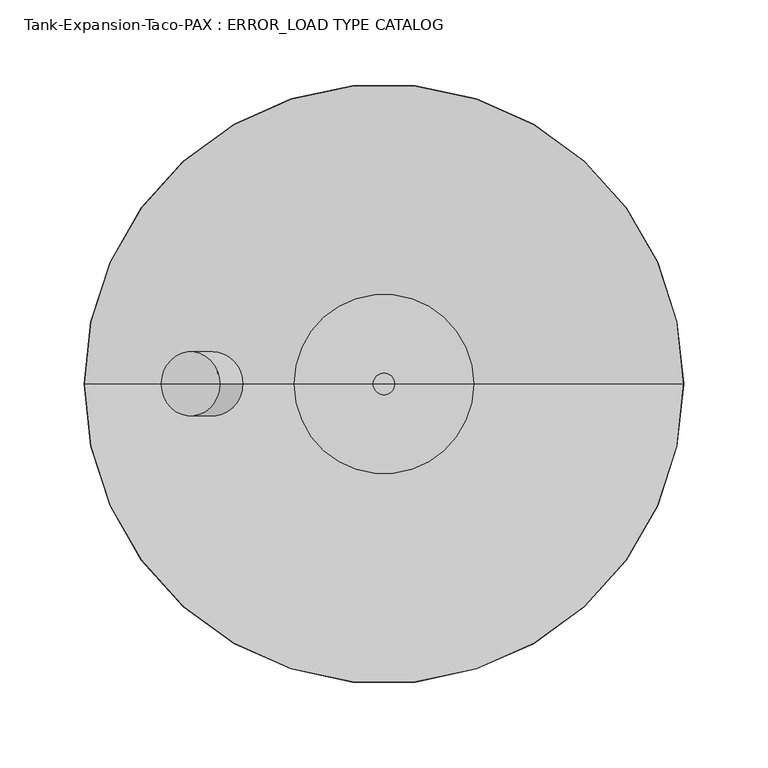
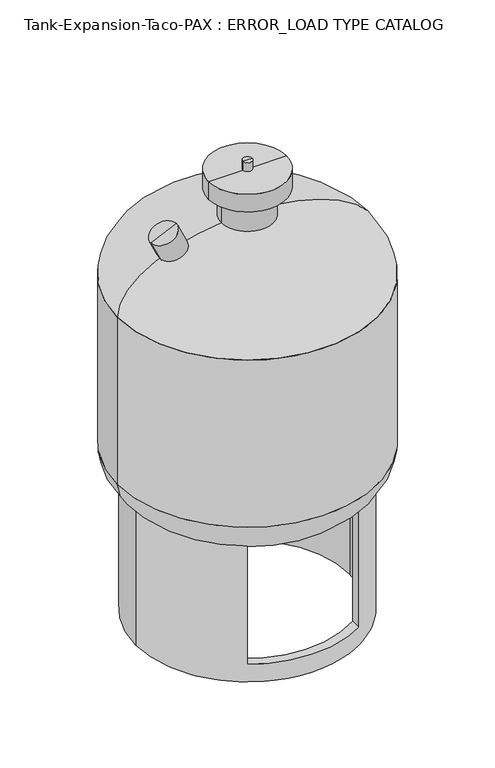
"""IFC4 building model written with IfcOpenShell, lengths in millimetres: proxy geometry, Tank-Expansion-Taco-PAX : ERROR_LOAD TYPE CATALOG."""

from ifc_helpers import new_model, si_unit, point, frame, origin, place, context, project, spatial, polyline, circle_curve, ellipse_curve, trimmed, source, transform, mapped, element, save
from ifc_brep_helpers import plane_surface, cylinder_surface, revolved_surface, advanced_brep


def tank_expansion_taco_pax_error_load_type_catalog_ec3dda8b(model_context):
    return source(origin(), model_context, "Body", "AdvancedBrep", [
        advanced_brep(
        [(-114.722864, 0.0, 581.9412054), (-97.4262377, 0.0, 589.9242636), (-132.0194903, 0.0, 573.9581471), (-97.4262377, 0.0, 499.0060999), (-62.8329852, 0.0, 514.9722164), (-80.1296115, 0.0, 506.9891582)],
        [
            (0, 1),
            (1, 2, circle_curve(frame((-114.722864, 0.0, 581.9412054), z_axis=(-0.41905817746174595, 0.0, 0.9079593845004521), x_axis=(0.9079593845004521, 0.0, 0.41905817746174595)), 19.05)),
            (2, 0),
            (2, 1, circle_curve(frame((-114.722864, 0.0, 581.9412054), z_axis=(-0.41905817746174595, 0.0, 0.9079593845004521), x_axis=(0.9079593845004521, 0.0, 0.41905817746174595)), 19.05)),
            (3, 4, circle_curve(frame((-80.1296115, 0.0, 506.9891582), z_axis=(0.41905817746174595, 0.0, -0.9079593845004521), x_axis=(0.9079593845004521, 0.0, 0.41905817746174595)), 19.05)),
            (4, 5),
            (5, 3),
            (4, 3, circle_curve(frame((-80.1296115, 0.0, 506.9891582), z_axis=(0.41905817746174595, 0.0, -0.9079593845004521), x_axis=(0.9079593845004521, 0.0, 0.41905817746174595)), 19.05)),
            (1, 4),
            (3, 2),
        ],
        [
            plane_surface(frame((-114.722864, 0.0, 581.9412054), z_axis=(-0.41905817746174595, 0.0, 0.9079593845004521), x_axis=(0.9079593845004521, 0.0, 0.41905817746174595))),
            plane_surface(frame((-80.1296115, 0.0, 506.9891582), z_axis=(0.41905817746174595, 0.0, -0.9079593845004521), x_axis=(0.9079593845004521, 0.0, 0.41905817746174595))),
            cylinder_surface(frame((-117.3838834, 0.0, 587.7067475), z_axis=(-0.41905817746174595, 0.0, 0.9079593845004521), x_axis=(0.9079593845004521, 0.0, 0.41905817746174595)), 19.05),
        ],
        [
            (0, [[1, 2, 3]]),
            (0, [[-3, 4, -1]]),
            (1, [[5, 6, 7]]),
            (1, [[8, -7, -6]]),
            (2, [[-2, 9, -5, 10]]),
            (2, [[-4, -10, -8, -9]]),
        ],
    ),
        advanced_brep(
        [(177.8, 0.0, 482.6), (-177.8, 0.0, 482.6), (0.0, 0.0, 482.6), (177.8, 0.0, 241.3), (-177.8, 0.0, 241.3), (0.0, 0.0, 241.3)],
        [
            (0, 1, circle_curve(frame((0.0, 0.0, 482.6), z_axis=(0.0, 0.0, 1.0), x_axis=(-1.0, 0.0, 0.0)), 177.8)),
            (1, 2),
            (2, 0),
            (1, 0, circle_curve(frame((0.0, 0.0, 482.6), z_axis=(0.0, 0.0, 1.0), x_axis=(-1.0, 0.0, 0.0)), 177.8)),
            (3, 4, circle_curve(frame((0.0, 0.0, 241.3), z_axis=(0.0, 0.0, 1.0), x_axis=(-1.0, 0.0, 0.0)), 177.8)),
            (4, 1),
            (0, 3),
            (4, 3, circle_curve(frame((0.0, 0.0, 241.3), z_axis=(0.0, 0.0, 1.0), x_axis=(-1.0, 0.0, 0.0)), 177.8)),
            (5, 4),
            (3, 5),
        ],
        [
            plane_surface(frame((0.0, 0.0, 482.6), z_axis=(0.0, 0.0, 1.0), x_axis=(-1.0, 0.0, 0.0))),
            cylinder_surface(frame((0.0, 0.0, 768.35), z_axis=(0.0, 0.0, -1.0), x_axis=(-1.0, 0.0, 0.0)), 177.8),
            plane_surface(frame((0.0, 0.0, 241.3), z_axis=(0.0, 0.0, -1.0), x_axis=(-1.0, 0.0, 0.0))),
        ],
        [
            (0, [[1, 2, 3]]),
            (0, [[4, -3, -2]]),
            (1, [[5, 6, -1, 7]]),
            (1, [[8, -7, -4, -6]]),
            (2, [[9, -5, 10]]),
            (2, [[-10, -8, -9]]),
        ],
    ),
        advanced_brep(
        [(152.4, 0.0, 241.3), (-152.4, 0.0, 241.3), (-139.7, 0.0, 241.3), (139.7, 0.0, 241.3), (-76.2, -131.9822715, 241.3), (-76.2, -117.0882146, 241.3), (76.2, -117.0882146, 241.3), (76.2, -131.9822715, 241.3), (152.4, 0.0, 0.0), (-152.4, 0.0, 0.0), (76.2, -131.9822715, 25.4), (-76.2, -131.9822715, 25.4), (139.7, 0.0, 0.0), (-139.7, 0.0, 0.0), (-76.2, -117.0882146, 25.4), (76.2, -117.0882146, 25.4)],
        [
            (0, 1, circle_curve(frame((0.0, 0.0, 241.3), z_axis=(0.0, 0.0, 1.0), x_axis=(-1.0, 0.0, 0.0)), 152.4)),
            (1, 2),
            (2, 3, circle_curve(frame((0.0, 0.0, 241.3), z_axis=(0.0, 0.0, -1.0), x_axis=(-1.0, 0.0, 0.0)), 139.7)),
            (3, 0),
            (1, 4, circle_curve(frame((0.0, 0.0, 241.3), z_axis=(0.0, 0.0, 1.0), x_axis=(-1.0, 0.0, 0.0)), 152.4)),
            (4, 5),
            (5, 2, circle_curve(frame((0.0, 0.0, 241.3), z_axis=(0.0, 0.0, -1.0), x_axis=(-1.0, 0.0, 0.0)), 139.7)),
            (3, 6, circle_curve(frame((0.0, 0.0, 241.3), z_axis=(0.0, 0.0, -1.0), x_axis=(-1.0, 0.0, 0.0)), 139.7)),
            (6, 7),
            (7, 0, circle_curve(frame((0.0, 0.0, 241.3), z_axis=(0.0, 0.0, 1.0), x_axis=(-1.0, 0.0, 0.0)), 152.4)),
            (0, 8),
            (8, 9, circle_curve(frame((0.0, 0.0, 0.0), z_axis=(0.0, 0.0, 1.0), x_axis=(-1.0, 0.0, 0.0)), 152.4)),
            (9, 1),
            (9, 8, circle_curve(frame((0.0, 0.0, 0.0), z_axis=(0.0, 0.0, 1.0), x_axis=(-1.0, 0.0, 0.0)), 152.4)),
            (7, 10),
            (10, 11, circle_curve(frame((0.0, 0.0, 25.4), z_axis=(0.0, 0.0, -1.0), x_axis=(-1.0, 0.0, 0.0)), 152.4)),
            (11, 4),
            (8, 12),
            (12, 13, circle_curve(frame((0.0, 0.0, 0.0), z_axis=(0.0, 0.0, 1.0), x_axis=(-1.0, 0.0, 0.0)), 139.7)),
            (13, 9),
            (13, 12, circle_curve(frame((0.0, 0.0, 0.0), z_axis=(0.0, 0.0, 1.0), x_axis=(-1.0, 0.0, 0.0)), 139.7)),
            (2, 13),
            (12, 3),
            (5, 14),
            (14, 15, circle_curve(frame((0.0, 0.0, 25.4), z_axis=(0.0, 0.0, 1.0), x_axis=(-1.0, 0.0, 0.0)), 139.7)),
            (15, 6),
            (11, 14),
            (10, 15),
        ],
        [
            plane_surface(frame((0.0, 0.0, 241.3), z_axis=(0.0, 0.0, 1.0), x_axis=(-1.0, 0.0, 0.0))),
            cylinder_surface(frame((0.0, 0.0, 469.9), z_axis=(0.0, 0.0, -1.0), x_axis=(-1.0, 0.0, 0.0)), 152.4),
            plane_surface(frame((0.0, 0.0, 0.0), z_axis=(0.0, 0.0, -1.0), x_axis=(-1.0, 0.0, 0.0))),
            revolved_surface(polyline([(-139.7, 0.0, 0.0), (-139.7, 0.0, 241.3)]), (0.0, 0.0, 469.9), (0.0, 0.0, -1.0)),
            plane_surface(frame((-76.2, -177.8, 241.3), z_axis=(1.0, 0.0, 0.0), x_axis=(0.0, 1.0, 0.0))),
            plane_surface(frame((-76.2, -177.8, 25.4), z_axis=(0.0, 0.0, 1.0), x_axis=(0.0, 1.0, 0.0))),
            plane_surface(frame((76.2, -177.8, 25.4), z_axis=(-1.0, 0.0, 0.0), x_axis=(0.0, 1.0, 0.0))),
        ],
        [
            (0, [[1, 2, 3, 4]]),
            (0, [[-2, 5, 6, 7]]),
            (0, [[-4, 8, 9, 10]]),
            (1, [[-1, 11, 12, 13]]),
            (1, [[-13, 14, -11, -10, 15, 16, 17, -5]]),
            (2, [[-12, 18, 19, 20]]),
            (2, [[-14, -20, 21, -18]]),
            (3, [[-3, 22, -19, 23]]),
            (3, [[-21, -22, -7, 24, 25, 26, -8, -23]]),
            (4, [[27, -24, -6, -17]]),
            (5, [[-27, -16, 28, -25]]),
            (6, [[-28, -15, -9, -26]]),
        ],
    ),
        advanced_brep(
        [(0.0, 0.0, 165.1), (12.7, 0.0, 165.1), (-12.7, 0.0, 165.1), (-12.7, 0.0, 139.7), (12.7, 0.0, 139.7), (0.0, 0.0, 139.7)],
        [
            (0, 1),
            (1, 2, circle_curve(frame((0.0, 0.0, 165.1), z_axis=(0.0, 0.0, 1.0), x_axis=(1.0, 0.0, 0.0)), 12.7)),
            (2, 0),
            (2, 1, circle_curve(frame((0.0, 0.0, 165.1), z_axis=(0.0, 0.0, 1.0), x_axis=(1.0, 0.0, 0.0)), 12.7)),
            (3, 4, circle_curve(frame((0.0, 0.0, 139.7), z_axis=(0.0, 0.0, -1.0), x_axis=(1.0, 0.0, 0.0)), 12.7)),
            (4, 5),
            (5, 3),
            (4, 3, circle_curve(frame((0.0, 0.0, 139.7), z_axis=(0.0, 0.0, -1.0), x_axis=(1.0, 0.0, 0.0)), 12.7)),
            (1, 4),
            (3, 2),
        ],
        [
            plane_surface(frame((0.0, 0.0, 165.1), z_axis=(0.0, 0.0, 1.0), x_axis=(1.0, 0.0, 0.0))),
            plane_surface(frame((0.0, 0.0, 139.7), z_axis=(0.0, 0.0, -1.0), x_axis=(1.0, 0.0, 0.0))),
            cylinder_surface(frame((0.0, 0.0, 730.25), z_axis=(0.0, 0.0, 1.0), x_axis=(1.0, 0.0, 0.0)), 12.7),
        ],
        [
            (0, [[1, 2, 3]]),
            (0, [[-3, 4, -1]]),
            (1, [[5, 6, 7]]),
            (1, [[8, -7, -6]]),
            (2, [[-2, 9, -5, 10]]),
            (2, [[-4, -10, -8, -9]]),
        ],
    ),
        advanced_brep(
        [(0.0, 0.0, 647.7), (6.35, 0.0, 647.7), (-6.35, 0.0, 647.7), (-35.71875, 0.0, 482.6), (35.71875, 0.0, 482.6), (0.0, 0.0, 482.6), (-35.71875, 0.0, 609.6), (35.71875, 0.0, 609.6), (-53.18125, 0.0, 609.6), (53.18125, 0.0, 609.6), (-53.18125, 0.0, 635.0), (53.18125, 0.0, 635.0), (-6.35, 0.0, 635.0), (6.35, 0.0, 635.0)],
        [
            (0, 1),
            (1, 2, circle_curve(frame((0.0, 0.0, 647.7), z_axis=(0.0, 0.0, 1.0), x_axis=(1.0, 0.0, 0.0)), 6.35)),
            (2, 0),
            (2, 1, circle_curve(frame((0.0, 0.0, 647.7), z_axis=(0.0, 0.0, 1.0), x_axis=(1.0, 0.0, 0.0)), 6.35)),
            (3, 4, circle_curve(frame((0.0, 0.0, 482.6), z_axis=(0.0, 0.0, -1.0), x_axis=(1.0, 0.0, 0.0)), 35.71875)),
            (4, 5),
            (5, 3),
            (4, 3, circle_curve(frame((0.0, 0.0, 482.6), z_axis=(0.0, 0.0, -1.0), x_axis=(1.0, 0.0, 0.0)), 35.71875)),
            (6, 7, circle_curve(frame((0.0, 0.0, 609.6), z_axis=(0.0, 0.0, -1.0), x_axis=(1.0, 0.0, 0.0)), 35.71875)),
            (7, 4),
            (3, 6),
            (7, 6, circle_curve(frame((0.0, 0.0, 609.6), z_axis=(0.0, 0.0, -1.0), x_axis=(1.0, 0.0, 0.0)), 35.71875)),
            (8, 9, circle_curve(frame((0.0, 0.0, 609.6), z_axis=(0.0, 0.0, -1.0), x_axis=(1.0, 0.0, 0.0)), 53.18125)),
            (9, 7),
            (6, 8),
            (9, 8, circle_curve(frame((0.0, 0.0, 609.6), z_axis=(0.0, 0.0, -1.0), x_axis=(1.0, 0.0, 0.0)), 53.18125)),
            (10, 11, circle_curve(frame((0.0, 0.0, 635.0), z_axis=(0.0, 0.0, -1.0), x_axis=(1.0, 0.0, 0.0)), 53.18125)),
            (11, 9),
            (8, 10),
            (11, 10, circle_curve(frame((0.0, 0.0, 635.0), z_axis=(0.0, 0.0, -1.0), x_axis=(1.0, 0.0, 0.0)), 53.18125)),
            (12, 13, circle_curve(frame((0.0, 0.0, 635.0), z_axis=(0.0, 0.0, -1.0), x_axis=(1.0, 0.0, 0.0)), 6.35)),
            (13, 11),
            (10, 12),
            (13, 12, circle_curve(frame((0.0, 0.0, 635.0), z_axis=(0.0, 0.0, -1.0), x_axis=(1.0, 0.0, 0.0)), 6.35)),
            (1, 13),
            (12, 2),
        ],
        [
            plane_surface(frame((0.0, 0.0, 647.7), z_axis=(0.0, 0.0, 1.0), x_axis=(1.0, 0.0, 0.0))),
            plane_surface(frame((0.0, 0.0, 482.6), z_axis=(0.0, 0.0, -1.0), x_axis=(1.0, 0.0, 0.0))),
            cylinder_surface(frame((0.0, 0.0, 730.25), z_axis=(0.0, 0.0, 1.0), x_axis=(1.0, 0.0, 0.0)), 35.71875),
            plane_surface(frame((0.0, 0.0, 609.6), z_axis=(0.0, 0.0, -1.0), x_axis=(1.0, 0.0, 0.0))),
            cylinder_surface(frame((0.0, 0.0, 730.25), z_axis=(0.0, 0.0, 1.0), x_axis=(1.0, 0.0, 0.0)), 53.18125),
            plane_surface(frame((0.0, 0.0, 635.0), z_axis=(0.0, 0.0, 1.0), x_axis=(1.0, 0.0, 0.0))),
            cylinder_surface(frame((0.0, 0.0, 730.25), z_axis=(0.0, 0.0, 1.0), x_axis=(1.0, 0.0, 0.0)), 6.35),
        ],
        [
            (0, [[1, 2, 3]]),
            (0, [[-3, 4, -1]]),
            (1, [[5, 6, 7]]),
            (1, [[8, -7, -6]]),
            (2, [[9, 10, -5, 11]]),
            (2, [[12, -11, -8, -10]]),
            (3, [[13, 14, -9, 15]]),
            (3, [[16, -15, -12, -14]]),
            (4, [[17, 18, -13, 19]]),
            (4, [[20, -19, -16, -18]]),
            (5, [[21, 22, -17, 23]]),
            (5, [[24, -23, -20, -22]]),
            (6, [[-2, 25, -21, 26]]),
            (6, [[-4, -26, -24, -25]]),
        ],
    ),
        advanced_brep(
        [(0.0, 0.0, 482.6), (-177.8, 0.0, 482.6), (177.8, 0.0, 482.6), (0.0, 0.0, 571.5)],
        [
            (0, 1),
            (1, 2, circle_curve(frame((0.0, 0.0, 482.6), z_axis=(0.0, 0.0, -1.0), x_axis=(-1.0, 0.0, 0.0)), 177.8)),
            (2, 0),
            (2, 1, circle_curve(frame((0.0, 0.0, 482.6), z_axis=(0.0, 0.0, -1.0), x_axis=(-1.0, 0.0, 0.0)), 177.8)),
            (1, 3, ellipse_curve(frame((0.0, 0.0, 482.6), z_axis=(0.0, 1.0, 0.0), x_axis=(1.0, 0.0, 0.0)), 177.8, 88.9)),
            (3, 2, ellipse_curve(frame((0.0, 0.0, 482.6), z_axis=(0.0, 1.0, 0.0), x_axis=(-1.0, 0.0, 0.0)), 177.8, 88.9)),
        ],
        [
            plane_surface(frame((0.0, 0.0, 482.6), z_axis=(0.0, 0.0, -1.0), x_axis=(-1.0, 0.0, 0.0))),
            revolved_surface(trimmed(ellipse_curve(frame((0.0, 0.0, 482.6), z_axis=(0.0, -1.0, 0.0), x_axis=(0.0, 0.0, -1.0)), 88.9, 177.8), [point((0.0, 0.0, 571.5))], [point((-177.8, 0.0, 482.6))], True, "CARTESIAN"), (0.0, 0.0, 1054.1), (0.0, 0.0, -1.0)),
        ],
        [
            (0, [[1, 2, 3]]),
            (0, [[-3, 4, -1]]),
            (1, [[-2, 5, 6]]),
            (1, [[-4, -6, -5]]),
        ],
    ),
        advanced_brep(
        [(177.8, 0.0, 241.3), (-177.8, 0.0, 241.3), (0.0, 0.0, 241.3), (0.0, 0.0, 152.4)],
        [
            (0, 1, circle_curve(frame((0.0, 0.0, 241.3), z_axis=(0.0, 0.0, 1.0), x_axis=(-1.0, 0.0, 0.0)), 177.8)),
            (1, 2),
            (2, 0),
            (1, 0, circle_curve(frame((0.0, 0.0, 241.3), z_axis=(0.0, 0.0, 1.0), x_axis=(-1.0, 0.0, 0.0)), 177.8)),
            (3, 1, ellipse_curve(frame((0.0, 0.0, 241.3), z_axis=(0.0, 1.0, 0.0), x_axis=(-1.0, 0.0, 0.0)), 177.8, 88.9)),
            (0, 3, ellipse_curve(frame((0.0, 0.0, 241.3), z_axis=(0.0, 1.0, 0.0), x_axis=(1.0, 0.0, 0.0)), 177.8, 88.9)),
        ],
        [
            plane_surface(frame((0.0, 0.0, 241.3), z_axis=(0.0, 0.0, 1.0), x_axis=(-1.0, 0.0, 0.0))),
            revolved_surface(trimmed(ellipse_curve(frame((0.0, 0.0, 241.3), z_axis=(0.0, -1.0, 0.0), x_axis=(0.0, 0.0, 1.0)), 88.9, 177.8), [point((-177.8, 0.0, 241.3))], [point((0.0, 0.0, 152.4))], True, "CARTESIAN"), (0.0, 0.0, 1054.1), (0.0, 0.0, -1.0)),
        ],
        [
            (0, [[1, 2, 3]]),
            (0, [[4, -3, -2]]),
            (1, [[5, -1, 6]]),
            (1, [[-6, -4, -5]]),
        ],
    ),
    ])


if __name__ == "__main__":
    model = new_model("IFC4")
    model_context = context("Model", 3, world=origin())
    ifc_project = project(units=[si_unit("LENGTHUNIT", "METRE", prefix="MILLI")], contexts=[model_context])
    site = spatial("IfcSite", under=ifc_project)
    building = spatial("IfcBuilding", under=site)
    placement = place(None, origin())
    tank_expansion_taco_pax_error_load_type_catalog_shape = tank_expansion_taco_pax_error_load_type_catalog_ec3dda8b(model_context)
    element("IfcBuildingElementProxy", 1, Name="Tank-Expansion-Taco-PAX : ERROR_LOAD TYPE CATALOG", ObjectType="Tank-Expansion-Taco-PAX : ERROR_LOAD TYPE CATALOG", at=placement, inside=building, context=model_context, shape_type="MappedRepresentation", body=[
        mapped(tank_expansion_taco_pax_error_load_type_catalog_shape, transform((0.0, 0.0, 0.0), x_axis=(1.0, 0.0, 0.0), y_axis=(0.0, 1.0, 0.0), z_axis=(0.0, 0.0, 1.0))),
    ])
    save(model, "model.ifc")
